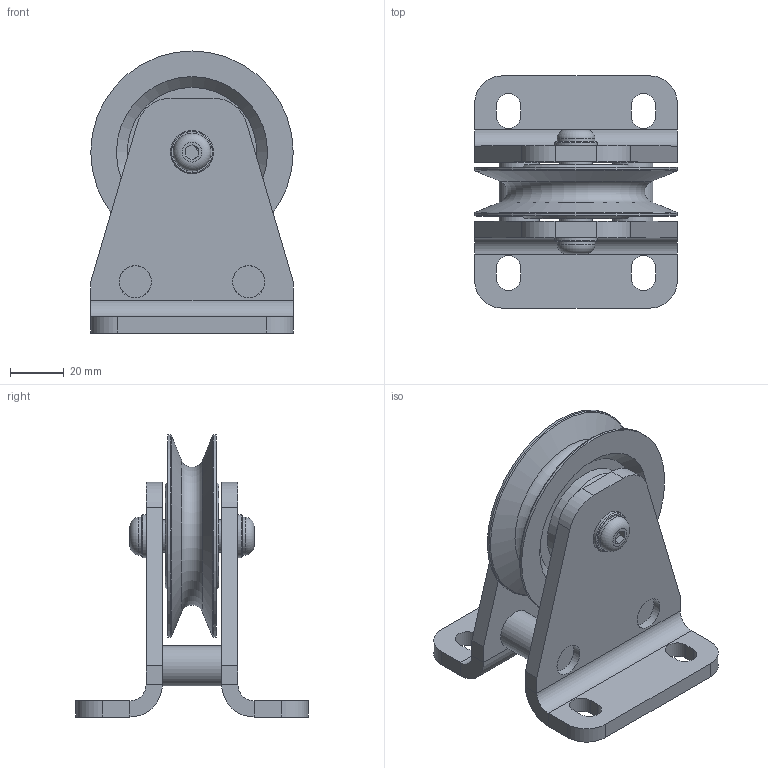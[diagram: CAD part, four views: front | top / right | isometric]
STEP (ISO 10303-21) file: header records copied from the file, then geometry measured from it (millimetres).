
FILE_DESCRIPTION(/* description */ ('Seilrollenbock ø75 Stahl Kugellager komplett'),/* implementation_level */ '2;1');
FILE_NAME(/* name */ 'C:\_Arbeitsordner\CAD DATEN\1 Seilrollen\1.405 K Seilrollenbock Stahl Kugellager\1.405.02 K Seilrollenbock ø75 Stahl Kugellager\1.405.02 K Seilrollenbock ø75 Stahl Kugellager komplett.stp',/* time_stamp */ '2020-10-08T07:02:55+02:00',/* author */ ('cad-user'),/* organization */ (''),/* preprocessor_version */ 'ST-DEVELOPER v18',/* originating_system */ 'Autodesk Inventor 2020',/* authorisation */ '');
FILE_SCHEMA (('AUTOMOTIVE_DESIGN { 1 0 10303 214 3 1 1 }'));
Length unit declared in the file: millimetre
Products named in the file (15): 1.405.02 K Seilrollenbock ø75 Stahl Kugellager komplett; 1.405.02.01 Seilrollenbock Schweißteil; 1.405.02.01 Blech; 1.405.02.01 Distanzachse; 1.402.02 Seilrolle ø75 Kugellager komplett; 1.402.02 Seilrolle ø75 Kugellager; DIN625 - 6201-2RS; din625_-_6201-2rs_0_05; din625_-_6201-2rs_0_04; din625_-_6201-2rs_0_03; din625_-_6201-2rs_0_02; din625_-_6201-2rs_0_01; 1.405.02.02 Achse; DIN 125-1 - B 8,4; ISO 7380 - M8 x 16
Assembly tree (19 placements, depth 4):
  1.405.02 K Seilrollenbock ø75 Stahl Kugellager komplett
    1.405.02.01 Seilrollenbock Schweißteil
      1.405.02.01 Blech  x2
      1.405.02.01 Distanzachse  x2
    1.402.02 Seilrolle ø75 Kugellager komplett
      1.402.02 Seilrolle ø75 Kugellager
      DIN625 - 6201-2RS  x2
        din625_-_6201-2rs_0_05
        din625_-_6201-2rs_0_04
        din625_-_6201-2rs_0_03
        din625_-_6201-2rs_0_02
        din625_-_6201-2rs_0_01
    1.405.02.02 Achse
    DIN 125-1 - B 8,4  x2
    ISO 7380 - M8 x 16  x2
Bounding box: 75 x 86 x 104.5 mm (x, y, z)
Volume: 131436.8 mm3; surface area: 67809.7 mm2
Topology: 20 solids, 20 shells, 228 faces, 583 edges, 409 vertices
Faces by surface type: plane 98, cylinder 75, torus 31, cone 12, sphere 12
Full cylindrical faces by diameter (mm): 6.647 x1, 8 x2, 8.4 x2, 9.2 x2, 11.8 x4, 12 x7, 14 x2, 15 x2, 16 x2, 16.1 x8, 18 x4, 26 x4, 27.8 x8, 32 x3, 40 x2, 75 x2
Entity records: 4937 total; most frequent: CARTESIAN_POINT 1122, DIRECTION 778, ORIENTED_EDGE 622, AXIS2_PLACEMENT_3D 338, EDGE_CURVE 311, VERTEX_POINT 229, CIRCLE 178, EDGE_LOOP 174
